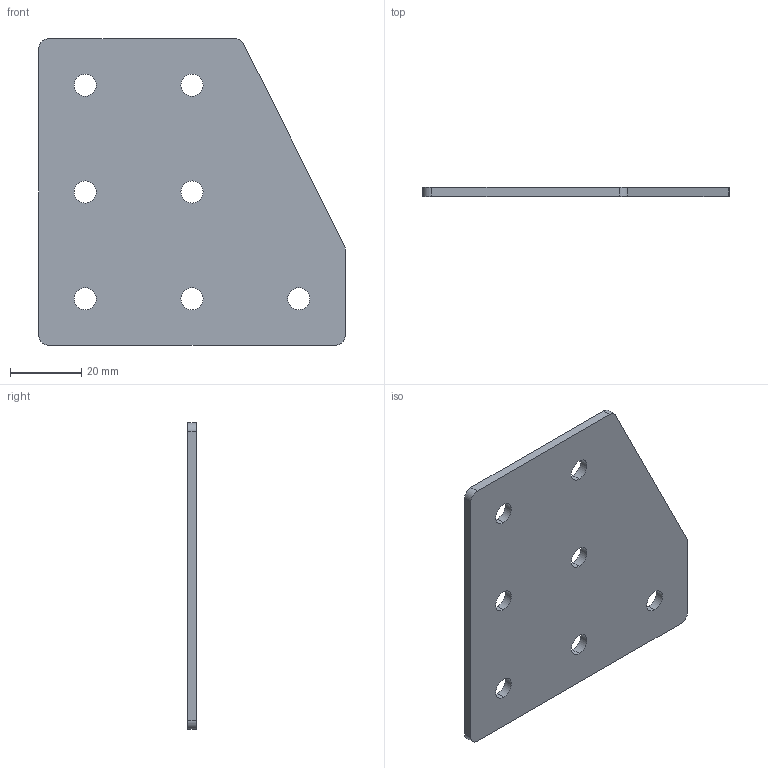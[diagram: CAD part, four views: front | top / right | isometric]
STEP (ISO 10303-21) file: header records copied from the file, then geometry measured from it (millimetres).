
FILE_DESCRIPTION (( 'STEP AP203' ), '1' );
FILE_NAME ('Ã-7-ó-30.STEP', '2016-07-20T11:06:15', ( '' ), ( '' ), 'SwSTEP 2.0', 'SolidWorks 2014', '' );
FILE_SCHEMA (( 'CONFIG_CONTROL_DESIGN' ));
Length unit declared in the file: millimetre
Products named in the file (1): Ã-7-ó-30
Bounding box: 86 x 2.5 x 86 mm (x, y, z)
Surface area: 13787 mm2 (no closed solid volume)
Topology: 0 solids, 1 shells, 26 faces, 72 edges, 48 vertices
Faces by surface type: cylinder 19, plane 7
Entity records: 959 total; most frequent: DIRECTION 164, CARTESIAN_POINT 147, ORIENTED_EDGE 144, EDGE_CURVE 72, AXIS2_PLACEMENT_3D 65, VERTEX_POINT 48, EDGE_LOOP 40, CIRCLE 38
